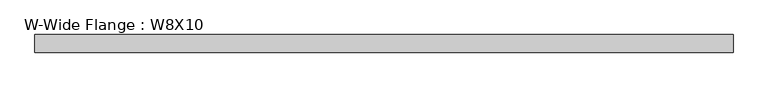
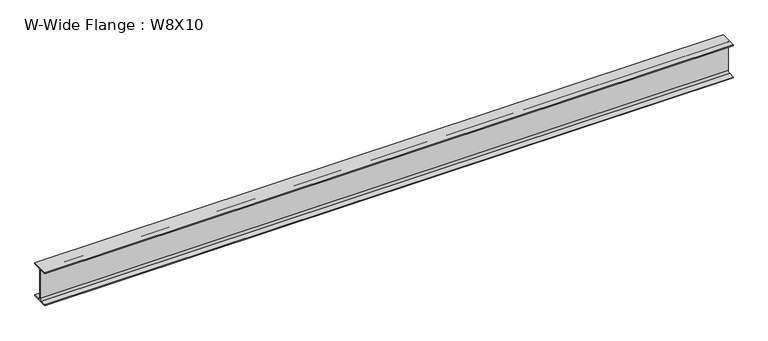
"""IFC4 building model written with IfcOpenShell, lengths in millimetres: beam geometry, W-Wide Flange : W8X10."""

from ifc_helpers import new_model, si_unit, point, frame, frame_2d, origin, place, context, project, spatial, polyline, circle_curve, trimmed, segment, composite_curve, outline, extrude, source, transform, mapped, element, save


def w_wide_flange_w8x10_f96a4068(model_context):
    return source(origin(), model_context, "Body", "SweptSolid", [
        extrude(outline(composite_curve([segment(polyline([(50.038, -94.996), (50.038, -100.203), (-50.038, -100.203), (-50.038, -94.996), (-14.4145, -94.996)]), True, "CONTINUOUS"), segment(trimmed(circle_curve(frame_2d((-14.4145, -82.7405)), 12.2555), [point((-14.4145, -94.996))], [point((-2.159, -82.7405))], True, "CARTESIAN"), True, "CONTINUOUS"), segment(polyline([(-2.159, -82.7405), (-2.159, 82.7405)]), True, "CONTINUOUS"), segment(trimmed(circle_curve(frame_2d((-14.4145, 82.7405)), 12.2555), [point((-2.159, 82.7405))], [point((-14.4145, 94.996))], True, "CARTESIAN"), True, "CONTINUOUS"), segment(polyline([(-14.4145, 94.996), (-50.038, 94.996), (-50.038, 100.203), (50.038, 100.203), (50.038, 94.996), (14.4145, 94.996)]), True, "CONTINUOUS"), segment(trimmed(circle_curve(frame_2d((14.4145, 82.7405)), 12.2555), [point((14.4145, 94.996))], [point((2.159, 82.7405))], True, "CARTESIAN"), True, "CONTINUOUS"), segment(polyline([(2.159, 82.7405), (2.159, -82.7405)]), True, "CONTINUOUS"), segment(trimmed(circle_curve(frame_2d((14.4145, -82.7405)), 12.2555), [point((2.159, -82.7405))], [point((14.4145, -94.996))], True, "CARTESIAN"), True, "CONTINUOUS"), segment(polyline([(14.4145, -94.996), (50.038, -94.996)]), True, "CONTINUOUS")], self_intersect=False)), frame((-1992.5605469, 0.0, 0.0), z_axis=(1.0, 0.0, 0.0), x_axis=(0.0, 1.0, 0.0)), (0.0, 0.0, 1.0), 3956.0440469),
    ])


if __name__ == "__main__":
    model = new_model("IFC4")
    model_context = context("Model", 3, world=origin())
    ifc_project = project(units=[si_unit("LENGTHUNIT", "METRE", prefix="MILLI")], contexts=[model_context])
    site = spatial("IfcSite", under=ifc_project)
    building = spatial("IfcBuilding", under=site)
    placement = place(None, origin())
    w_wide_flange_w8x10_shape = w_wide_flange_w8x10_f96a4068(model_context)
    element("IfcBeam", 1, ObjectType="W-Wide Flange : W8X10", at=placement, inside=building, context=model_context, shape_type="MappedRepresentation", body=[
        mapped(w_wide_flange_w8x10_shape, transform((0.0, 0.0, 0.0), x_axis=(1.0, 0.0, 0.0), y_axis=(0.0, 1.0, 0.0), z_axis=(0.0, 0.0, 1.0))),
    ])
    save(model, "model.ifc")
